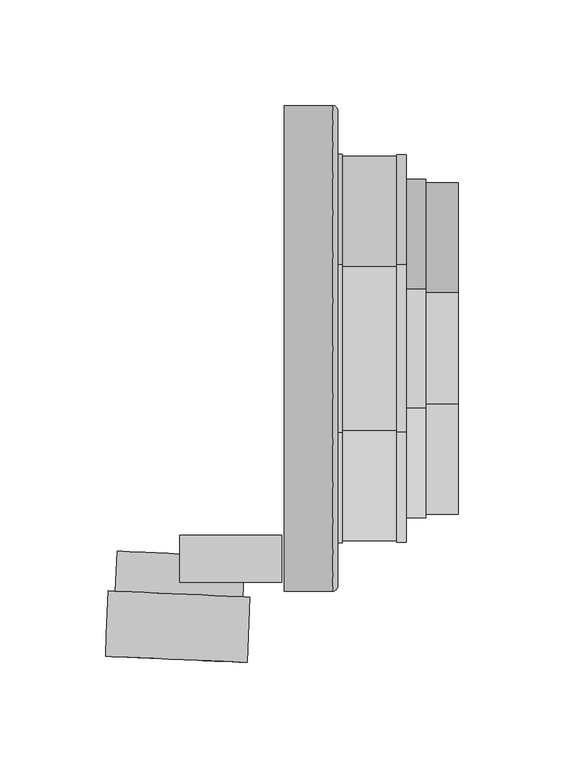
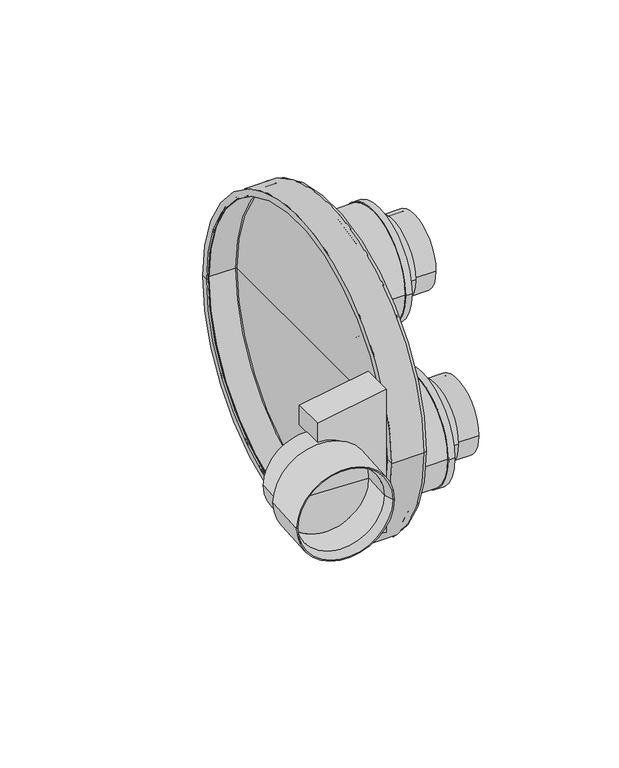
"""IFC4 building model written with IfcOpenShell, lengths in millimetres: pipe fitting geometry, Durapipe_PipeAccessories_VulcatheneMechanical_DilutionRecoveryTrap4.5L_W612 : W612 - 4.5 ltr."""

from ifc_helpers import new_model, si_unit, point, frame, origin, place, context, project, spatial, polyline, circle_curve, ellipse_curve, trimmed, source, transform, mapped, element, save
from ifc_brep_helpers import plane_surface, cylinder_surface, revolved_surface, extruded_surface, advanced_brep


def pipe_fitting_6a20dd4a(model_context):
    return source(origin(), model_context, "Body", "AdvancedBrep", [
        advanced_brep(
        [(72.3010911, 39.75, 60.325), (72.3010911, -39.75, 60.325), (70.0995372, -39.75, 60.325), (70.0995372, 39.75, 60.325), (72.3010911, 38.8, 60.325), (72.3010911, -38.8, 60.325), (98.0995372, 38.8, 60.325), (98.0995372, -38.8, 60.325), (98.0995372, 39.6, 60.325), (98.0995372, -39.6, 60.325), (102.5995372, 39.6, 60.325), (102.5995372, -39.6, 60.325), (102.5995372, 28.04, 60.325), (102.5995372, -28.04, 60.325), (111.7359009, 28.04, 60.325), (111.7359009, -28.04, 60.325), (111.7359009, 26.3298304, 60.325), (111.7359009, -26.3298304, 60.325), (127.0995372, 26.3298304, 60.325), (127.0995372, -26.3298304, 60.325), (127.0995372, 24.35, 60.325), (127.0995372, -24.35, 60.325), (105.2995372, 24.35, 60.325), (105.2995372, -24.35, 60.325), (105.2995372, 0.0, 60.325), (105.2995372, 27.8929825, -30.1625), (105.2995372, 76.5929825, -30.1625), (105.2995372, 52.2429825, -30.1625), (127.0995372, 27.8929825, -30.1625), (127.0995372, 76.5929825, -30.1625), (127.0995372, 25.9131521, -30.1625), (127.0995372, 78.5728129, -30.1625), (111.7359009, 25.9131521, -30.1625), (111.7359009, 78.5728129, -30.1625), (111.7359009, 24.2029825, -30.1625), (111.7359009, 80.2829825, -30.1625), (102.5995372, 24.2029825, -30.1625), (102.5995372, 80.2829825, -30.1625), (102.5995372, 12.6429825, -30.1625), (102.5995372, 91.8429825, -30.1625), (98.0995372, 12.6429825, -30.1625), (98.0995372, 91.8429825, -30.1625), (98.0995372, 13.4429825, -30.1625), (98.0995372, 91.0429825, -30.1625), (72.3010911, 13.4429825, -30.1625), (72.3010911, 91.0429825, -30.1625), (72.3010911, 12.4929825, -30.1625), (72.3010911, 91.9929825, -30.1625), (70.0995372, 12.4929825, -30.1625), (70.0995372, 91.9929825, -30.1625), (70.0995372, 78.1328665, 0.0), (70.0995372, 26.3530985, 0.0), (105.2995372, -52.2429825, -30.1625), (105.2995372, -76.5929825, -30.1625), (105.2995372, -27.8929825, -30.1625), (127.0995372, -76.5929825, -30.1625), (127.0995372, -27.8929825, -30.1625), (127.0995372, -78.5728129, -30.1625), (127.0995372, -25.9131521, -30.1625), (111.7359009, -78.5728129, -30.1625), (111.7359009, -25.9131521, -30.1625), (111.7359009, -80.2829825, -30.1625), (111.7359009, -24.2029825, -30.1625), (102.5995372, -80.2829825, -30.1625), (102.5995372, -24.2029825, -30.1625), (102.5995372, -91.8429825, -30.1625), (102.5995372, -12.6429825, -30.1625), (98.0995372, -91.8429825, -30.1625), (98.0995372, -12.6429825, -30.1625), (98.0995372, -91.0429825, -30.1625), (98.0995372, -13.4429825, -30.1625), (72.3010911, -91.0429825, -30.1625), (72.3010911, -13.4429825, -30.1625), (72.3010911, -91.9929825, -30.1625), (72.3010911, -12.4929825, -30.1625), (70.0995372, -91.9929825, -30.1625), (70.0995372, -12.4929825, -30.1625), (70.0995372, -26.3530985, 0.0), (70.0995372, -78.1328665, 0.0), (45.7599778, -110.33, 0.0), (45.7599778, 110.33, 0.0), (44.6995372, 110.33, 0.0), (44.6995372, -110.33, 0.0), (46.3736992, -110.78413, 0.0), (46.3736992, 110.78413, 0.0), (46.6027276, -111.5332482, 0.0), (46.6027276, 111.5332482, 0.0), (47.3677714, -112.0993508, 0.0), (47.3677714, 112.0993508, 0.0), (66.010177, -112.0993508, 0.0), (66.010177, 112.0993508, 0.0), (66.5995372, -111.5099906, 0.0), (66.5995372, 111.5099906, 0.0), (66.5995372, 0.0, 0.0), (70.0995372, -112.5834761, 0.0), (70.0995372, 112.5834761, 0.0), (70.0995372, 0.0, 0.0), (67.5880133, -115.095, 0.0), (67.5880133, 115.095, 0.0), (44.6995372, -115.095, 0.0), (44.6995372, 115.095, 0.0)],
        [
            (0, 1, circle_curve(frame((72.3010911, 0.0, 60.325), z_axis=(-1.0, 0.0, 0.0), x_axis=(0.0, -1.0, 0.0)), 39.75)),
            (1, 2),
            (2, 3, circle_curve(frame((70.0995372, 0.0, 60.325), z_axis=(1.0, 0.0, 0.0), x_axis=(0.0, -1.0, 0.0)), 39.75)),
            (3, 0),
            (1, 0, circle_curve(frame((72.3010911, 0.0, 60.325), z_axis=(-1.0, 0.0, 0.0), x_axis=(0.0, -1.0, 0.0)), 39.75)),
            (3, 2, circle_curve(frame((70.0995372, 0.0, 60.325), z_axis=(1.0, 0.0, 0.0), x_axis=(0.0, -1.0, 0.0)), 39.75)),
            (0, 4),
            (4, 5, circle_curve(frame((72.3010911, 0.0, 60.325), z_axis=(-1.0, 0.0, 0.0), x_axis=(0.0, -1.0, 0.0)), 38.8)),
            (5, 1),
            (5, 4, circle_curve(frame((72.3010911, 0.0, 60.325), z_axis=(-1.0, 0.0, 0.0), x_axis=(0.0, -1.0, 0.0)), 38.8)),
            (4, 6),
            (6, 7, circle_curve(frame((98.0995372, 0.0, 60.325), z_axis=(-1.0, 0.0, 0.0), x_axis=(0.0, -1.0, 0.0)), 38.8)),
            (7, 5),
            (7, 6, circle_curve(frame((98.0995372, 0.0, 60.325), z_axis=(-1.0, 0.0, 0.0), x_axis=(0.0, -1.0, 0.0)), 38.8)),
            (6, 8),
            (8, 9, circle_curve(frame((98.0995372, 0.0, 60.325), z_axis=(-1.0, 0.0, 0.0), x_axis=(0.0, -1.0, 0.0)), 39.6)),
            (9, 7),
            (9, 8, circle_curve(frame((98.0995372, 0.0, 60.325), z_axis=(-1.0, 0.0, 0.0), x_axis=(0.0, -1.0, 0.0)), 39.6)),
            (8, 10),
            (10, 11, circle_curve(frame((102.5995372, 0.0, 60.325), z_axis=(-1.0, 0.0, 0.0), x_axis=(0.0, -1.0, 0.0)), 39.6)),
            (11, 9),
            (11, 10, circle_curve(frame((102.5995372, 0.0, 60.325), z_axis=(-1.0, 0.0, 0.0), x_axis=(0.0, -1.0, 0.0)), 39.6)),
            (10, 12),
            (12, 13, circle_curve(frame((102.5995372, 0.0, 60.325), z_axis=(-1.0, 0.0, 0.0), x_axis=(0.0, -1.0, 0.0)), 28.04)),
            (13, 11),
            (13, 12, circle_curve(frame((102.5995372, 0.0, 60.325), z_axis=(-1.0, 0.0, 0.0), x_axis=(0.0, -1.0, 0.0)), 28.04)),
            (12, 14),
            (14, 15, circle_curve(frame((111.7359009, 0.0, 60.325), z_axis=(-1.0, 0.0, 0.0), x_axis=(0.0, -1.0, 0.0)), 28.04)),
            (15, 13),
            (15, 14, circle_curve(frame((111.7359009, 0.0, 60.325), z_axis=(-1.0, 0.0, 0.0), x_axis=(0.0, -1.0, 0.0)), 28.04)),
            (14, 16),
            (16, 17, circle_curve(frame((111.7359009, 0.0, 60.325), z_axis=(-1.0, 0.0, 0.0), x_axis=(0.0, -1.0, 0.0)), 26.3298304)),
            (17, 15),
            (17, 16, circle_curve(frame((111.7359009, 0.0, 60.325), z_axis=(-1.0, 0.0, 0.0), x_axis=(0.0, -1.0, 0.0)), 26.3298304)),
            (16, 18),
            (18, 19, circle_curve(frame((127.0995372, 0.0, 60.325), z_axis=(-1.0, 0.0, 0.0), x_axis=(0.0, -1.0, 0.0)), 26.3298304)),
            (19, 17),
            (19, 18, circle_curve(frame((127.0995372, 0.0, 60.325), z_axis=(-1.0, 0.0, 0.0), x_axis=(0.0, -1.0, 0.0)), 26.3298304)),
            (18, 20),
            (20, 21, circle_curve(frame((127.0995372, 0.0, 60.325), z_axis=(-1.0, 0.0, 0.0), x_axis=(0.0, -1.0, 0.0)), 24.35)),
            (21, 19),
            (21, 20, circle_curve(frame((127.0995372, 0.0, 60.325), z_axis=(-1.0, 0.0, 0.0), x_axis=(0.0, -1.0, 0.0)), 24.35)),
            (20, 22),
            (22, 23, circle_curve(frame((105.2995372, 0.0, 60.325), z_axis=(-1.0, 0.0, 0.0), x_axis=(0.0, -1.0, 0.0)), 24.35)),
            (23, 21),
            (23, 22, circle_curve(frame((105.2995372, 0.0, 60.325), z_axis=(-1.0, 0.0, 0.0), x_axis=(0.0, -1.0, 0.0)), 24.35)),
            (22, 24),
            (24, 23),
            (25, 26, circle_curve(frame((105.2995372, 52.2429825, -30.1625), z_axis=(1.0, 0.0, 0.0), x_axis=(0.0, 1.0, 0.0)), 24.35)),
            (26, 27),
            (27, 25),
            (26, 25, circle_curve(frame((105.2995372, 52.2429825, -30.1625), z_axis=(1.0, 0.0, 0.0), x_axis=(0.0, 1.0, 0.0)), 24.35)),
            (25, 28),
            (28, 29, circle_curve(frame((127.0995372, 52.2429825, -30.1625), z_axis=(1.0, 0.0, 0.0), x_axis=(0.0, 1.0, 0.0)), 24.35)),
            (29, 26),
            (29, 28, circle_curve(frame((127.0995372, 52.2429825, -30.1625), z_axis=(1.0, 0.0, 0.0), x_axis=(0.0, 1.0, 0.0)), 24.35)),
            (28, 30),
            (30, 31, circle_curve(frame((127.0995372, 52.2429825, -30.1625), z_axis=(1.0, 0.0, 0.0), x_axis=(0.0, 1.0, 0.0)), 26.3298304)),
            (31, 29),
            (31, 30, circle_curve(frame((127.0995372, 52.2429825, -30.1625), z_axis=(1.0, 0.0, 0.0), x_axis=(0.0, 1.0, 0.0)), 26.3298304)),
            (30, 32),
            (32, 33, circle_curve(frame((111.7359009, 52.2429825, -30.1625), z_axis=(1.0, 0.0, 0.0), x_axis=(0.0, 1.0, 0.0)), 26.3298304)),
            (33, 31),
            (33, 32, circle_curve(frame((111.7359009, 52.2429825, -30.1625), z_axis=(1.0, 0.0, 0.0), x_axis=(0.0, 1.0, 0.0)), 26.3298304)),
            (32, 34),
            (34, 35, circle_curve(frame((111.7359009, 52.2429825, -30.1625), z_axis=(1.0, 0.0, 0.0), x_axis=(0.0, 1.0, 0.0)), 28.04)),
            (35, 33),
            (35, 34, circle_curve(frame((111.7359009, 52.2429825, -30.1625), z_axis=(1.0, 0.0, 0.0), x_axis=(0.0, 1.0, 0.0)), 28.04)),
            (34, 36),
            (36, 37, circle_curve(frame((102.5995372, 52.2429825, -30.1625), z_axis=(1.0, 0.0, 0.0), x_axis=(0.0, 1.0, 0.0)), 28.04)),
            (37, 35),
            (37, 36, circle_curve(frame((102.5995372, 52.2429825, -30.1625), z_axis=(1.0, 0.0, 0.0), x_axis=(0.0, 1.0, 0.0)), 28.04)),
            (36, 38),
            (38, 39, circle_curve(frame((102.5995372, 52.2429825, -30.1625), z_axis=(1.0, 0.0, 0.0), x_axis=(0.0, 1.0, 0.0)), 39.6)),
            (39, 37),
            (39, 38, circle_curve(frame((102.5995372, 52.2429825, -30.1625), z_axis=(1.0, 0.0, 0.0), x_axis=(0.0, 1.0, 0.0)), 39.6)),
            (38, 40),
            (40, 41, circle_curve(frame((98.0995372, 52.2429825, -30.1625), z_axis=(1.0, 0.0, 0.0), x_axis=(0.0, 1.0, 0.0)), 39.6)),
            (41, 39),
            (41, 40, circle_curve(frame((98.0995372, 52.2429825, -30.1625), z_axis=(1.0, 0.0, 0.0), x_axis=(0.0, 1.0, 0.0)), 39.6)),
            (40, 42),
            (42, 43, circle_curve(frame((98.0995372, 52.2429825, -30.1625), z_axis=(1.0, 0.0, 0.0), x_axis=(0.0, 1.0, 0.0)), 38.8)),
            (43, 41),
            (43, 42, circle_curve(frame((98.0995372, 52.2429825, -30.1625), z_axis=(1.0, 0.0, 0.0), x_axis=(0.0, 1.0, 0.0)), 38.8)),
            (42, 44),
            (44, 45, circle_curve(frame((72.3010911, 52.2429825, -30.1625), z_axis=(1.0, 0.0, 0.0), x_axis=(0.0, 1.0, 0.0)), 38.8)),
            (45, 43),
            (45, 44, circle_curve(frame((72.3010911, 52.2429825, -30.1625), z_axis=(1.0, 0.0, 0.0), x_axis=(0.0, 1.0, 0.0)), 38.8)),
            (44, 46),
            (46, 47, circle_curve(frame((72.3010911, 52.2429825, -30.1625), z_axis=(1.0, 0.0, 0.0), x_axis=(0.0, 1.0, 0.0)), 39.75)),
            (47, 45),
            (47, 46, circle_curve(frame((72.3010911, 52.2429825, -30.1625), z_axis=(1.0, 0.0, 0.0), x_axis=(0.0, 1.0, 0.0)), 39.75)),
            (46, 48),
            (48, 49, circle_curve(frame((70.0995372, 52.2429825, -30.1625), z_axis=(1.0, 0.0, 0.0), x_axis=(0.0, 1.0, 0.0)), 39.75)),
            (49, 47),
            (49, 50, circle_curve(frame((70.0995372, 52.2429825, -30.1625), z_axis=(1.0, 0.0, 0.0), x_axis=(0.0, 1.0, 0.0)), 39.75)),
            (50, 51, circle_curve(frame((70.0995372, 52.2429825, -30.1625), z_axis=(1.0, 0.0, 0.0), x_axis=(0.0, 1.0, 0.0)), 39.75)),
            (51, 48, circle_curve(frame((70.0995372, 52.2429825, -30.1625), z_axis=(1.0, 0.0, 0.0), x_axis=(0.0, 1.0, 0.0)), 39.75)),
            (52, 53),
            (53, 54, circle_curve(frame((105.2995372, -52.2429825, -30.1625), z_axis=(1.0, 0.0, 0.0), x_axis=(0.0, -1.0, 0.0)), 24.35)),
            (54, 52),
            (54, 53, circle_curve(frame((105.2995372, -52.2429825, -30.1625), z_axis=(1.0, 0.0, 0.0), x_axis=(0.0, -1.0, 0.0)), 24.35)),
            (53, 55),
            (55, 56, circle_curve(frame((127.0995372, -52.2429825, -30.1625), z_axis=(1.0, 0.0, 0.0), x_axis=(0.0, -1.0, 0.0)), 24.35)),
            (56, 54),
            (56, 55, circle_curve(frame((127.0995372, -52.2429825, -30.1625), z_axis=(1.0, 0.0, 0.0), x_axis=(0.0, -1.0, 0.0)), 24.35)),
            (55, 57),
            (57, 58, circle_curve(frame((127.0995372, -52.2429825, -30.1625), z_axis=(1.0, 0.0, 0.0), x_axis=(0.0, -1.0, 0.0)), 26.3298304)),
            (58, 56),
            (58, 57, circle_curve(frame((127.0995372, -52.2429825, -30.1625), z_axis=(1.0, 0.0, 0.0), x_axis=(0.0, -1.0, 0.0)), 26.3298304)),
            (57, 59),
            (59, 60, circle_curve(frame((111.7359009, -52.2429825, -30.1625), z_axis=(1.0, 0.0, 0.0), x_axis=(0.0, -1.0, 0.0)), 26.3298304)),
            (60, 58),
            (60, 59, circle_curve(frame((111.7359009, -52.2429825, -30.1625), z_axis=(1.0, 0.0, 0.0), x_axis=(0.0, -1.0, 0.0)), 26.3298304)),
            (59, 61),
            (61, 62, circle_curve(frame((111.7359009, -52.2429825, -30.1625), z_axis=(1.0, 0.0, 0.0), x_axis=(0.0, -1.0, 0.0)), 28.04)),
            (62, 60),
            (62, 61, circle_curve(frame((111.7359009, -52.2429825, -30.1625), z_axis=(1.0, 0.0, 0.0), x_axis=(0.0, -1.0, 0.0)), 28.04)),
            (61, 63),
            (63, 64, circle_curve(frame((102.5995372, -52.2429825, -30.1625), z_axis=(1.0, 0.0, 0.0), x_axis=(0.0, -1.0, 0.0)), 28.04)),
            (64, 62),
            (64, 63, circle_curve(frame((102.5995372, -52.2429825, -30.1625), z_axis=(1.0, 0.0, 0.0), x_axis=(0.0, -1.0, 0.0)), 28.04)),
            (63, 65),
            (65, 66, circle_curve(frame((102.5995372, -52.2429825, -30.1625), z_axis=(1.0, 0.0, 0.0), x_axis=(0.0, -1.0, 0.0)), 39.6)),
            (66, 64),
            (66, 65, circle_curve(frame((102.5995372, -52.2429825, -30.1625), z_axis=(1.0, 0.0, 0.0), x_axis=(0.0, -1.0, 0.0)), 39.6)),
            (65, 67),
            (67, 68, circle_curve(frame((98.0995372, -52.2429825, -30.1625), z_axis=(1.0, 0.0, 0.0), x_axis=(0.0, -1.0, 0.0)), 39.6)),
            (68, 66),
            (68, 67, circle_curve(frame((98.0995372, -52.2429825, -30.1625), z_axis=(1.0, 0.0, 0.0), x_axis=(0.0, -1.0, 0.0)), 39.6)),
            (67, 69),
            (69, 70, circle_curve(frame((98.0995372, -52.2429825, -30.1625), z_axis=(1.0, 0.0, 0.0), x_axis=(0.0, -1.0, 0.0)), 38.8)),
            (70, 68),
            (70, 69, circle_curve(frame((98.0995372, -52.2429825, -30.1625), z_axis=(1.0, 0.0, 0.0), x_axis=(0.0, -1.0, 0.0)), 38.8)),
            (69, 71),
            (71, 72, circle_curve(frame((72.3010911, -52.2429825, -30.1625), z_axis=(1.0, 0.0, 0.0), x_axis=(0.0, -1.0, 0.0)), 38.8)),
            (72, 70),
            (72, 71, circle_curve(frame((72.3010911, -52.2429825, -30.1625), z_axis=(1.0, 0.0, 0.0), x_axis=(0.0, -1.0, 0.0)), 38.8)),
            (71, 73),
            (73, 74, circle_curve(frame((72.3010911, -52.2429825, -30.1625), z_axis=(1.0, 0.0, 0.0), x_axis=(0.0, -1.0, 0.0)), 39.75)),
            (74, 72),
            (74, 73, circle_curve(frame((72.3010911, -52.2429825, -30.1625), z_axis=(1.0, 0.0, 0.0), x_axis=(0.0, -1.0, 0.0)), 39.75)),
            (73, 75),
            (75, 76, circle_curve(frame((70.0995372, -52.2429825, -30.1625), z_axis=(1.0, 0.0, 0.0), x_axis=(0.0, -1.0, 0.0)), 39.75)),
            (76, 74),
            (76, 77, circle_curve(frame((70.0995372, -52.2429825, -30.1625), z_axis=(1.0, 0.0, 0.0), x_axis=(0.0, -1.0, 0.0)), 39.75)),
            (77, 78, circle_curve(frame((70.0995372, -52.2429825, -30.1625), z_axis=(1.0, 0.0, 0.0), x_axis=(0.0, -1.0, 0.0)), 39.75)),
            (78, 75, circle_curve(frame((70.0995372, -52.2429825, -30.1625), z_axis=(1.0, 0.0, 0.0), x_axis=(0.0, -1.0, 0.0)), 39.75)),
            (79, 80, circle_curve(frame((45.7599778, 0.0, 0.0), z_axis=(1.0, 0.0, 0.0), x_axis=(0.0, 1.0, 0.0)), 110.33)),
            (80, 81),
            (81, 82, circle_curve(frame((44.6995372, 0.0, 0.0), z_axis=(-1.0, 0.0, 0.0), x_axis=(0.0, 1.0, 0.0)), 110.33)),
            (82, 79),
            (80, 79, circle_curve(frame((45.7599778, 0.0, 0.0), z_axis=(1.0, 0.0, 0.0), x_axis=(0.0, 1.0, 0.0)), 110.33)),
            (82, 81, circle_curve(frame((44.6995372, 0.0, 0.0), z_axis=(-1.0, 0.0, 0.0), x_axis=(0.0, 1.0, 0.0)), 110.33)),
            (79, 83, circle_curve(frame((45.7599778, -110.9717635, 0.0), z_axis=(0.0, 0.0, -1.0), x_axis=(1.0, 0.0, 0.0)), 0.6417635)),
            (83, 84, circle_curve(frame((46.3736992, 0.0, 0.0), z_axis=(1.0, 0.0, 0.0), x_axis=(0.0, 1.0, 0.0)), 110.78413)),
            (84, 80, circle_curve(frame((45.7599778, 110.9717635, 0.0), z_axis=(0.0, 0.0, -1.0), x_axis=(1.0, 0.0, 0.0)), 0.6417635)),
            (84, 83, circle_curve(frame((46.3736992, 0.0, 0.0), z_axis=(1.0, 0.0, 0.0), x_axis=(0.0, 1.0, 0.0)), 110.78413)),
            (83, 85),
            (85, 86, circle_curve(frame((46.6027276, 0.0, 0.0), z_axis=(1.0, 0.0, 0.0), x_axis=(0.0, 1.0, 0.0)), 111.5332482)),
            (86, 84),
            (86, 85, circle_curve(frame((46.6027276, 0.0, 0.0), z_axis=(1.0, 0.0, 0.0), x_axis=(0.0, 1.0, 0.0)), 111.5332482)),
            (85, 87, circle_curve(frame((47.3677714, -111.2993508, 0.0), z_axis=(0.0, 0.0, 1.0), x_axis=(1.0, 0.0, 0.0)), 0.8)),
            (87, 88, circle_curve(frame((47.3677714, 0.0, 0.0), z_axis=(1.0, 0.0, 0.0), x_axis=(0.0, 1.0, 0.0)), 112.0993508)),
            (88, 86, circle_curve(frame((47.3677714, 111.2993508, 0.0), z_axis=(0.0, 0.0, 1.0), x_axis=(1.0, 0.0, 0.0)), 0.8)),
            (88, 87, circle_curve(frame((47.3677714, 0.0, 0.0), z_axis=(1.0, 0.0, 0.0), x_axis=(0.0, 1.0, 0.0)), 112.0993508)),
            (87, 89),
            (89, 90, circle_curve(frame((66.010177, 0.0, 0.0), z_axis=(1.0, 0.0, 0.0), x_axis=(0.0, 1.0, 0.0)), 112.0993508)),
            (90, 88),
            (90, 89, circle_curve(frame((66.010177, 0.0, 0.0), z_axis=(1.0, 0.0, 0.0), x_axis=(0.0, 1.0, 0.0)), 112.0993508)),
            (89, 91, circle_curve(frame((66.010177, -111.5099906, 0.0), z_axis=(0.0, 0.0, 1.0), x_axis=(1.0, 0.0, 0.0)), 0.5893602)),
            (91, 92, circle_curve(frame((66.5995372, 0.0, 0.0), z_axis=(1.0, 0.0, 0.0), x_axis=(0.0, 1.0, 0.0)), 111.5099906)),
            (92, 90, circle_curve(frame((66.010177, 111.5099906, 0.0), z_axis=(0.0, 0.0, 1.0), x_axis=(1.0, 0.0, 0.0)), 0.5893602)),
            (92, 91, circle_curve(frame((66.5995372, 0.0, 0.0), z_axis=(1.0, 0.0, 0.0), x_axis=(0.0, 1.0, 0.0)), 111.5099906)),
            (91, 93),
            (93, 92),
            (94, 95, circle_curve(frame((70.0995372, 0.0, 0.0), z_axis=(1.0, 0.0, 0.0), x_axis=(0.0, 1.0, 0.0)), 112.5834761)),
            (95, 50),
            (51, 96),
            (96, 77),
            (78, 94),
            (95, 94, circle_curve(frame((70.0995372, 0.0, 0.0), z_axis=(1.0, 0.0, 0.0), x_axis=(0.0, 1.0, 0.0)), 112.5834761)),
            (94, 97, circle_curve(frame((67.5880133, -112.5834761, 0.0), z_axis=(0.0, 0.0, -1.0), x_axis=(1.0, 0.0, 0.0)), 2.5115239)),
            (97, 98, circle_curve(frame((67.5880133, 0.0, 0.0), z_axis=(1.0, 0.0, 0.0), x_axis=(0.0, 1.0, 0.0)), 115.095)),
            (98, 95, circle_curve(frame((67.5880133, 112.5834761, 0.0), z_axis=(0.0, 0.0, -1.0), x_axis=(1.0, 0.0, 0.0)), 2.5115239)),
            (98, 97, circle_curve(frame((67.5880133, 0.0, 0.0), z_axis=(1.0, 0.0, 0.0), x_axis=(0.0, 1.0, 0.0)), 115.095)),
            (97, 99),
            (99, 100, circle_curve(frame((44.6995372, 0.0, 0.0), z_axis=(1.0, 0.0, 0.0), x_axis=(0.0, 1.0, 0.0)), 115.095)),
            (100, 98),
            (100, 99, circle_curve(frame((44.6995372, 0.0, 0.0), z_axis=(1.0, 0.0, 0.0), x_axis=(0.0, 1.0, 0.0)), 115.095)),
            (81, 100),
            (99, 82),
        ],
        [
            cylinder_surface(frame((30.0995372, 0.0, 60.325), z_axis=(1.0, 0.0, 0.0), x_axis=(0.0, -1.0, 0.0)), 39.75),
            plane_surface(frame((72.3010911, 0.0, 60.325), z_axis=(1.0, 0.0, 0.0), x_axis=(0.0, -1.0, 0.0))),
            cylinder_surface(frame((30.0995372, 0.0, 60.325), z_axis=(1.0, 0.0, 0.0), x_axis=(0.0, -1.0, 0.0)), 38.8),
            plane_surface(frame((98.0995372, 0.0, 60.325), z_axis=(-1.0, 0.0, 0.0), x_axis=(0.0, -1.0, 0.0))),
            cylinder_surface(frame((30.0995372, 0.0, 60.325), z_axis=(1.0, 0.0, 0.0), x_axis=(0.0, -1.0, 0.0)), 39.6),
            plane_surface(frame((102.5995372, 0.0, 60.325), z_axis=(1.0, 0.0, 0.0), x_axis=(0.0, -1.0, 0.0))),
            cylinder_surface(frame((30.0995372, 0.0, 60.325), z_axis=(1.0, 0.0, 0.0), x_axis=(0.0, -1.0, 0.0)), 28.04),
            plane_surface(frame((111.7359009, 0.0, 60.325), z_axis=(1.0, 0.0, 0.0), x_axis=(0.0, -1.0, 0.0))),
            cylinder_surface(frame((30.0995372, 0.0, 60.325), z_axis=(1.0, 0.0, 0.0), x_axis=(0.0, -1.0, 0.0)), 26.3298304),
            plane_surface(frame((127.0995372, 0.0, 60.325), z_axis=(1.0, 0.0, 0.0), x_axis=(0.0, -1.0, 0.0))),
            revolved_surface(polyline([(127.0995372, -24.35, 60.325), (105.2995372, -24.35, 60.325)]), (30.0995372, 0.0, 60.325), (1.0, 0.0, 0.0)),
            plane_surface(frame((105.2995372, 0.0, 60.325), z_axis=(1.0, 0.0, 0.0), x_axis=(0.0, -1.0, 0.0))),
            plane_surface(frame((105.2995372, 52.2429825, -30.1625), z_axis=(1.0, 0.0, 0.0), x_axis=(0.0, 1.0, 0.0))),
            revolved_surface(polyline([(105.29953719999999, 76.5929825, -30.1625), (127.0995372, 76.5929825, -30.1625)]), (-126.9004628, 52.2429825, -30.1625), (-1.0, 0.0, 0.0)),
            plane_surface(frame((127.0995372, 52.2429825, -30.1625), z_axis=(1.0, 0.0, 0.0), x_axis=(0.0, 1.0, 0.0))),
            cylinder_surface(frame((-126.9004628, 52.2429825, -30.1625), z_axis=(-1.0, 0.0, 0.0), x_axis=(0.0, 1.0, 0.0)), 26.3298304),
            plane_surface(frame((111.7359009, 52.2429825, -30.1625), z_axis=(1.0, 0.0, 0.0), x_axis=(0.0, 1.0, 0.0))),
            cylinder_surface(frame((-126.9004628, 52.2429825, -30.1625), z_axis=(-1.0, 0.0, 0.0), x_axis=(0.0, 1.0, 0.0)), 28.04),
            plane_surface(frame((102.5995372, 52.2429825, -30.1625), z_axis=(1.0, 0.0, 0.0), x_axis=(0.0, 1.0, 0.0))),
            cylinder_surface(frame((-126.9004628, 52.2429825, -30.1625), z_axis=(-1.0, 0.0, 0.0), x_axis=(0.0, 1.0, 0.0)), 39.6),
            plane_surface(frame((98.0995372, 52.2429825, -30.1625), z_axis=(-1.0, 0.0, 0.0), x_axis=(0.0, 1.0, 0.0))),
            cylinder_surface(frame((-126.9004628, 52.2429825, -30.1625), z_axis=(-1.0, 0.0, 0.0), x_axis=(0.0, 1.0, 0.0)), 38.8),
            plane_surface(frame((72.3010911, 52.2429825, -30.1625), z_axis=(1.0, 0.0, 0.0), x_axis=(0.0, 1.0, 0.0))),
            cylinder_surface(frame((-126.9004628, 52.2429825, -30.1625), z_axis=(-1.0, 0.0, 0.0), x_axis=(0.0, 1.0, 0.0)), 39.75),
            plane_surface(frame((105.2995372, -52.2429825, -30.1625), z_axis=(1.0, 0.0, 0.0), x_axis=(0.0, -1.0, 0.0))),
            revolved_surface(polyline([(127.0995372, -76.5929825, -30.1625), (105.29953719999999, -76.5929825, -30.1625)]), (-126.9004628, -52.2429825, -30.1625), (1.0, 0.0, 0.0)),
            plane_surface(frame((127.0995372, -52.2429825, -30.1625), z_axis=(1.0, 0.0, 0.0), x_axis=(0.0, -1.0, 0.0))),
            cylinder_surface(frame((-126.9004628, -52.2429825, -30.1625), z_axis=(1.0, 0.0, 0.0), x_axis=(0.0, -1.0, 0.0)), 26.3298304),
            plane_surface(frame((111.7359009, -52.2429825, -30.1625), z_axis=(1.0, 0.0, 0.0), x_axis=(0.0, -1.0, 0.0))),
            cylinder_surface(frame((-126.9004628, -52.2429825, -30.1625), z_axis=(1.0, 0.0, 0.0), x_axis=(0.0, -1.0, 0.0)), 28.04),
            plane_surface(frame((102.5995372, -52.2429825, -30.1625), z_axis=(1.0, 0.0, 0.0), x_axis=(0.0, -1.0, 0.0))),
            cylinder_surface(frame((-126.9004628, -52.2429825, -30.1625), z_axis=(1.0, 0.0, 0.0), x_axis=(0.0, -1.0, 0.0)), 39.6),
            plane_surface(frame((98.0995372, -52.2429825, -30.1625), z_axis=(-1.0, 0.0, 0.0), x_axis=(0.0, -1.0, 0.0))),
            cylinder_surface(frame((-126.9004628, -52.2429825, -30.1625), z_axis=(1.0, 0.0, 0.0), x_axis=(0.0, -1.0, 0.0)), 38.8),
            plane_surface(frame((72.3010911, -52.2429825, -30.1625), z_axis=(1.0, 0.0, 0.0), x_axis=(0.0, -1.0, 0.0))),
            cylinder_surface(frame((-126.9004628, -52.2429825, -30.1625), z_axis=(1.0, 0.0, 0.0), x_axis=(0.0, -1.0, 0.0)), 39.75),
            revolved_surface(polyline([(44.69953720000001, 110.33, 0.0), (45.7599778, 110.33, 0.0)]), (140.0995372, 0.0, 0.0), (-1.0, 0.0, 0.0)),
            revolved_surface(trimmed(ellipse_curve(frame((45.7599778, 110.9717635, 0.0), z_axis=(0.0, 0.0, 1.0), x_axis=(1.0, 0.0, 0.0)), 0.6417635, 0.6417635), [point((45.7599778, 110.33, 0.0))], [point((46.3736992, 110.78413, 0.0))], True, "CARTESIAN"), (140.0995372, 0.0, 0.0), (-1.0, 0.0, 0.0)),
            revolved_surface(polyline([(46.3736992, 110.78413, 0.0), (46.6027276, 111.5332482, 0.0)]), (140.0995372, 0.0, 0.0), (-1.0, 0.0, 0.0)),
            revolved_surface(trimmed(ellipse_curve(frame((47.3677714, 111.2993508, 0.0), z_axis=(0.0, 0.0, -1.0), x_axis=(1.0, 0.0, 0.0)), 0.8, 0.8), [point((46.6027276, 111.5332482, 0.0))], [point((47.3677714, 112.0993508, 0.0))], True, "CARTESIAN"), (140.0995372, 0.0, 0.0), (-1.0, 0.0, 0.0)),
            revolved_surface(polyline([(47.36777140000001, 112.0993508, 0.0), (66.010177, 112.0993508, 0.0)]), (140.0995372, 0.0, 0.0), (-1.0, 0.0, 0.0)),
            revolved_surface(trimmed(ellipse_curve(frame((66.010177, 111.5099906, 0.0), z_axis=(0.0, 0.0, -1.0), x_axis=(1.0, 0.0, 0.0)), 0.5893602, 0.5893602), [point((66.010177, 112.0993508, 0.0))], [point((66.5995372, 111.5099906, 0.0))], True, "CARTESIAN"), (140.0995372, 0.0, 0.0), (-1.0, 0.0, 0.0)),
            plane_surface(frame((66.5995372, 0.0, 0.0), z_axis=(-1.0, 0.0, 0.0), x_axis=(0.0, 1.0, 0.0))),
            plane_surface(frame((70.0995372, 0.0, 0.0), z_axis=(1.0, 0.0, 0.0), x_axis=(0.0, 1.0, 0.0))),
            revolved_surface(trimmed(ellipse_curve(frame((67.5880133, 112.5834761, 0.0), z_axis=(0.0, 0.0, 1.0), x_axis=(1.0, 0.0, 0.0)), 2.5115239, 2.5115239), [point((70.0995372, 112.5834761, 0.0))], [point((67.5880133, 115.095, 0.0))], True, "CARTESIAN"), (140.0995372, 0.0, 0.0), (-1.0, 0.0, 0.0)),
            cylinder_surface(frame((140.0995372, 0.0, 0.0), z_axis=(-1.0, 0.0, 0.0), x_axis=(0.0, 1.0, 0.0)), 115.095),
            plane_surface(frame((44.6995372, 0.0, 0.0), z_axis=(-1.0, 0.0, 0.0), x_axis=(0.0, 1.0, 0.0))),
        ],
        [
            (0, [[1, 2, 3, 4]]),
            (0, [[-2, 5, -4, 6]]),
            (1, [[-1, 7, 8, 9]]),
            (1, [[-5, -9, 10, -7]]),
            (2, [[-8, 11, 12, 13]]),
            (2, [[-10, -13, 14, -11]]),
            (3, [[-12, 15, 16, 17]]),
            (3, [[-14, -17, 18, -15]]),
            (4, [[-16, 19, 20, 21]]),
            (4, [[-18, -21, 22, -19]]),
            (5, [[-20, 23, 24, 25]]),
            (5, [[-22, -25, 26, -23]]),
            (6, [[-24, 27, 28, 29]]),
            (6, [[-26, -29, 30, -27]]),
            (7, [[-28, 31, 32, 33]]),
            (7, [[-30, -33, 34, -31]]),
            (8, [[-32, 35, 36, 37]]),
            (8, [[-34, -37, 38, -35]]),
            (9, [[-36, 39, 40, 41]]),
            (9, [[-38, -41, 42, -39]]),
            (10, [[-40, 43, 44, 45]]),
            (10, [[-42, -45, 46, -43]]),
            (11, [[-44, 47, 48]]),
            (11, [[-46, -48, -47]]),
            (12, [[49, 50, 51]]),
            (12, [[-50, 52, -51]]),
            (13, [[-49, 53, 54, 55]]),
            (13, [[-52, -55, 56, -53]]),
            (14, [[-54, 57, 58, 59]]),
            (14, [[-56, -59, 60, -57]]),
            (15, [[-58, 61, 62, 63]]),
            (15, [[-60, -63, 64, -61]]),
            (16, [[-62, 65, 66, 67]]),
            (16, [[-64, -67, 68, -65]]),
            (17, [[-66, 69, 70, 71]]),
            (17, [[-68, -71, 72, -69]]),
            (18, [[-70, 73, 74, 75]]),
            (18, [[-72, -75, 76, -73]]),
            (19, [[-74, 77, 78, 79]]),
            (19, [[-76, -79, 80, -77]]),
            (20, [[-78, 81, 82, 83]]),
            (20, [[-80, -83, 84, -81]]),
            (21, [[-82, 85, 86, 87]]),
            (21, [[-84, -87, 88, -85]]),
            (22, [[-86, 89, 90, 91]]),
            (22, [[-88, -91, 92, -89]]),
            (23, [[-90, 93, 94, 95]]),
            (23, [[-92, -95, 96, 97, 98, -93]]),
            (24, [[99, 100, 101]]),
            (24, [[-99, -101, 102]]),
            (25, [[-100, 103, 104, 105]]),
            (25, [[-102, -105, 106, -103]]),
            (26, [[-104, 107, 108, 109]]),
            (26, [[-106, -109, 110, -107]]),
            (27, [[-108, 111, 112, 113]]),
            (27, [[-110, -113, 114, -111]]),
            (28, [[-112, 115, 116, 117]]),
            (28, [[-114, -117, 118, -115]]),
            (29, [[-116, 119, 120, 121]]),
            (29, [[-118, -121, 122, -119]]),
            (30, [[-120, 123, 124, 125]]),
            (30, [[-122, -125, 126, -123]]),
            (31, [[-124, 127, 128, 129]]),
            (31, [[-126, -129, 130, -127]]),
            (32, [[-128, 131, 132, 133]]),
            (32, [[-130, -133, 134, -131]]),
            (33, [[-132, 135, 136, 137]]),
            (33, [[-134, -137, 138, -135]]),
            (34, [[-136, 139, 140, 141]]),
            (34, [[-138, -141, 142, -139]]),
            (35, [[-140, 143, 144, 145]]),
            (35, [[-142, -145, 146, 147, 148, -143]]),
            (36, [[149, 150, 151, 152]]),
            (36, [[-150, 153, -152, 154]]),
            (37, [[-149, 155, 156, 157]]),
            (37, [[-153, -157, 158, -155]]),
            (38, [[-156, 159, 160, 161]]),
            (38, [[-158, -161, 162, -159]]),
            (39, [[-160, 163, 164, 165]]),
            (39, [[-162, -165, 166, -163]]),
            (40, [[-164, 167, 168, 169]]),
            (40, [[-166, -169, 170, -167]]),
            (41, [[-168, 171, 172, 173]]),
            (41, [[-170, -173, 174, -171]]),
            (42, [[-172, 175, 176]]),
            (42, [[-174, -176, -175]]),
            (43, [[177, 178, -96, -94, -98, 179, 180, -146, -144, -148, 181]]),
            (43, [[182, -181, -147, -180, -179, -97, -178], [-3, -6]]),
            (44, [[-177, 183, 184, 185]]),
            (44, [[-182, -185, 186, -183]]),
            (45, [[-184, 187, 188, 189]]),
            (45, [[-186, -189, 190, -187]]),
            (46, [[-151, 191, -188, 192]]),
            (46, [[-154, -192, -190, -191]]),
        ],
    ),
        advanced_brep(
        [(24.9939917, -121.6568442, 0.0), (-35.5019747, -119.0155333, 0.0), (-36.380285, -139.1321477, 0.0), (24.1156814, -141.7734586, 0.0), (-5.2539915, -120.3361888, 0.0), (25.9948931, -98.7324347, 0.0), (-34.5010733, -96.0911237, 0.0), (-4.2530901, -97.4117792, 0.0), (25.1668292, -117.6982155, 0.0), (-35.3291372, -115.0569046, 0.0), (28.4656864, -117.8422468, 0.0), (-38.6279944, -114.9128734, 0.0), (27.1146768, -148.7854552, 0.0), (-39.9790041, -145.8560819, 0.0), (26.3026696, -148.7500022, 0.0), (-39.1669969, -145.8915349, 0.0)],
        [
            (0, 1, circle_curve(frame((-5.2539915, -120.3361888, 0.0), z_axis=(0.0436193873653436, 0.9990482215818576, 0.0), x_axis=(-0.9990482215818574, 0.04361938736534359, 0.0)), 30.2768)),
            (1, 2),
            (2, 3, circle_curve(frame((-6.1323018, -140.4528032, 0.0), z_axis=(-0.0436193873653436, -0.9990482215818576, 0.0), x_axis=(-0.9990482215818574, 0.04361938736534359, 0.0)), 30.2768)),
            (3, 0),
            (1, 0, circle_curve(frame((-5.2539915, -120.3361888, 0.0), z_axis=(0.0436193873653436, 0.9990482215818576, 0.0), x_axis=(-0.9990482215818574, 0.04361938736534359, 0.0)), 30.2768)),
            (3, 2, circle_curve(frame((-6.1323018, -140.4528032, 0.0), z_axis=(-0.0436193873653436, -0.9990482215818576, 0.0), x_axis=(-0.9990482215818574, 0.04361938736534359, 0.0)), 30.2768)),
            (4, 1),
            (0, 4),
            (5, 6, circle_curve(frame((-4.2530901, -97.4117792, 0.0), z_axis=(0.0436193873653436, 0.9990482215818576, 0.0), x_axis=(-0.9990482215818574, 0.04361938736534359, 0.0)), 30.2768)),
            (6, 7),
            (7, 5),
            (6, 5, circle_curve(frame((-4.2530901, -97.4117792, 0.0), z_axis=(0.0436193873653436, 0.9990482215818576, 0.0), x_axis=(-0.9990482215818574, 0.04361938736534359, 0.0)), 30.2768)),
            (8, 9, circle_curve(frame((-5.081154, -116.3775601, 0.0), z_axis=(0.0436193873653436, 0.9990482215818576, 0.0), x_axis=(-0.9990482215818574, 0.04361938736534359, 0.0)), 30.2768)),
            (9, 6),
            (5, 8),
            (9, 8, circle_curve(frame((-5.081154, -116.3775601, 0.0), z_axis=(0.0436193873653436, 0.9990482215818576, 0.0), x_axis=(-0.9990482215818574, 0.04361938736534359, 0.0)), 30.2768)),
            (10, 11, circle_curve(frame((-5.081154, -116.3775601, 0.0), z_axis=(0.0436193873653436, 0.9990482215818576, 0.0), x_axis=(-0.9990482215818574, 0.04361938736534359, 0.0)), 33.5788)),
            (11, 9),
            (8, 10),
            (11, 10, circle_curve(frame((-5.081154, -116.3775601, 0.0), z_axis=(0.0436193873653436, 0.9990482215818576, 0.0), x_axis=(-0.9990482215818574, 0.04361938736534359, 0.0)), 33.5788)),
            (12, 13, circle_curve(frame((-6.4321637, -147.3207686, 0.0), z_axis=(0.0436193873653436, 0.9990482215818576, 0.0), x_axis=(-0.9990482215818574, 0.04361938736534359, 0.0)), 33.5788)),
            (13, 11),
            (10, 12),
            (13, 12, circle_curve(frame((-6.4321637, -147.3207686, 0.0), z_axis=(0.0436193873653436, 0.9990482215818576, 0.0), x_axis=(-0.9990482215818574, 0.04361938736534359, 0.0)), 33.5788)),
            (14, 15, circle_curve(frame((-6.4321637, -147.3207686, 0.0), z_axis=(0.0436193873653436, 0.9990482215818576, 0.0), x_axis=(-0.9990482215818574, 0.04361938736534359, 0.0)), 32.7660192)),
            (15, 13),
            (12, 14),
            (15, 14, circle_curve(frame((-6.4321637, -147.3207686, 0.0), z_axis=(0.0436193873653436, 0.9990482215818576, 0.0), x_axis=(-0.9990482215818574, 0.04361938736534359, 0.0)), 32.7660192)),
            (2, 15),
            (14, 3),
        ],
        [
            revolved_surface(polyline([(-36.38028500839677, -139.13214773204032, 0.0), (-35.50197465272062, -119.01553326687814, 0.0)]), (-5.3266059, -121.9993329, 0.0), (-0.04361938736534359, -0.9990482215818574, 0.0)),
            plane_surface(frame((-5.2539915, -120.3361888, 0.0), z_axis=(-0.0436193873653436, -0.9990482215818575, 0.0), x_axis=(-0.9990482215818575, 0.0436193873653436, 0.0))),
            plane_surface(frame((-4.2530901, -97.4117792, 0.0), z_axis=(0.0436193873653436, 0.9990482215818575, 0.0), x_axis=(-0.9990482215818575, 0.0436193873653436, 0.0))),
            cylinder_surface(frame((-5.3266059, -121.9993329, 0.0), z_axis=(-0.04361938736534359, -0.9990482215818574, 0.0), x_axis=(-0.9990482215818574, 0.04361938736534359, 0.0)), 30.2768),
            plane_surface(frame((-5.081154, -116.3775601, 0.0), z_axis=(0.0436193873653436, 0.9990482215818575, 0.0), x_axis=(-0.9990482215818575, 0.0436193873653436, 0.0))),
            cylinder_surface(frame((-5.3266059, -121.9993329, 0.0), z_axis=(-0.04361938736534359, -0.9990482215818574, 0.0), x_axis=(-0.9990482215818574, 0.04361938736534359, 0.0)), 33.5788),
            plane_surface(frame((-6.4321637, -147.3207686, 0.0), z_axis=(-0.0436193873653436, -0.9990482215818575, 0.0), x_axis=(-0.9990482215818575, 0.0436193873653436, 0.0))),
            revolved_surface(polyline([(-39.1654297, -145.8560819, 0.0), (-36.380285, -139.1321477, 0.0)]), (-5.3266059, -121.9993329, 0.0), (-0.04361938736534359, -0.9990482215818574, 0.0)),
        ],
        [
            (0, [[1, 2, 3, 4]]),
            (0, [[5, -4, 6, -2]]),
            (1, [[7, -1, 8]]),
            (1, [[-8, -5, -7]]),
            (2, [[9, 10, 11]]),
            (2, [[12, -11, -10]]),
            (3, [[13, 14, -9, 15]]),
            (3, [[16, -15, -12, -14]]),
            (4, [[17, 18, -13, 19]]),
            (4, [[20, -19, -16, -18]]),
            (5, [[21, 22, -17, 23]]),
            (5, [[24, -23, -20, -22]]),
            (6, [[25, 26, -21, 27]]),
            (6, [[28, -27, -24, -26]]),
            (7, [[-3, 29, -25, 30]]),
            (7, [[-6, -30, -28, -29]]),
        ],
    ),
        advanced_brep(
        [(-4.8379628, -110.8075665, 44.577), (-4.8379628, -110.8075665, 30.2739361), (-4.8379628, -110.8075665, -30.2739361), (-4.8379628, -110.8075665, -44.577), (43.469301, -110.8075665, -53.094874), (43.469301, -110.8075665, 53.094874), (-4.8379628, -88.5500501, 44.577), (43.469301, -88.5500501, 53.094874), (43.469301, -88.5500501, -53.094874), (-4.8379628, -88.5500501, -44.577), (-4.8379628, -88.5500501, -30.2739361), (-4.8379628, -88.5500501, 30.2739361)],
        [
            (0, 1),
            (1, 2, ellipse_curve(frame((-5.2539915, -110.8075665, 0.0), z_axis=(0.0, 1.0, 0.0), x_axis=(0.0, 0.0, 1.0)), 30.2768, 30.2479832)),
            (2, 3),
            (3, 4),
            (4, 5),
            (5, 0),
            (6, 7),
            (7, 8),
            (8, 9),
            (9, 10),
            (10, 11, ellipse_curve(frame((-5.2539915, -88.5500501, 0.0), z_axis=(0.0, -1.0, 0.0), x_axis=(0.0, 0.0, 1.0)), 30.2768, 30.2479832)),
            (11, 6),
            (0, 6),
            (11, 1),
            (2, 10),
            (9, 3),
            (8, 4),
            (7, 5),
        ],
        [
            plane_surface(frame((-4.8379628, -110.8075665, 30.2768), z_axis=(0.0, -1.0, 0.0), x_axis=(0.0, 0.0, -1.0))),
            plane_surface(frame((-4.8379628, -88.5500501, 30.2768), z_axis=(0.0, 1.0, 0.0), x_axis=(0.0, 0.0, 1.0))),
            plane_surface(frame((-4.8379628, -110.8075665, 44.577), z_axis=(-1.0, 0.0, 0.0), x_axis=(0.0, 1.0, 0.0))),
            plane_surface(frame((-4.8379628, -110.8075665, -30.2739361), z_axis=(-1.0, 0.0, 0.0), x_axis=(0.0, 1.0, 0.0))),
            plane_surface(frame((-4.8379628, -110.8075665, -44.577), z_axis=(-0.17364817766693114, 0.0, -0.9848077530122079), x_axis=(0.0, 1.0, 0.0))),
            plane_surface(frame((43.469301, -110.8075665, -53.094874), z_axis=(1.0, 0.0, 0.0), x_axis=(0.0, 1.0, 0.0))),
            plane_surface(frame((43.469301, -110.8075665, 53.094874), z_axis=(-0.1736481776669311, 0.0, 0.9848077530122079), x_axis=(0.0, 1.0, 0.0))),
            extruded_surface(trimmed(ellipse_curve(frame((-5.2539915, -66.2925336, 0.0), z_axis=(0.0, 1.0, 0.0), x_axis=(0.0, 0.0, 1.0)), 30.2768, 30.2479832), [point((-4.8379628, -66.2925336, 30.2739361))], [point((-4.8379628, -66.2925336, -30.2739361))], True, "CARTESIAN"), (0.0, -22.25751650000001, 0.0), 22.25751650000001),
        ],
        [
            (0, [[1, 2, 3, 4, 5, 6]]),
            (1, [[7, 8, 9, 10, 11, 12]]),
            (2, [[-1, 13, -12, 14]]),
            (3, [[-3, 15, -10, 16]]),
            (4, [[-4, -16, -9, 17]]),
            (5, [[-5, -17, -8, 18]]),
            (6, [[-6, -18, -7, -13]]),
            (7, [[-2, -14, -11, -15]]),
        ],
    ),
    ])


if __name__ == "__main__":
    model = new_model("IFC4")
    model_context = context("Model", 3, world=origin())
    ifc_project = project(units=[si_unit("LENGTHUNIT", "METRE", prefix="MILLI")], contexts=[model_context])
    site = spatial("IfcSite", under=ifc_project)
    building = spatial("IfcBuilding", under=site)
    placement = place(None, origin())
    pipe_fitting_shape = pipe_fitting_6a20dd4a(model_context)
    element("IfcPipeFitting", 1, ObjectType="Durapipe_PipeAccessories_VulcatheneMechanical_DilutionRecoveryTrap4.5L_W612 : W612 - 4.5 ltr", at=placement, inside=building, context=model_context, shape_type="MappedRepresentation", body=[
        mapped(pipe_fitting_shape, transform((0.0, 0.0, 0.0), x_axis=(1.0, 0.0, 0.0), y_axis=(0.0, 1.0, 0.0), z_axis=(0.0, 0.0, 1.0))),
    ])
    save(model, "model.ifc")
